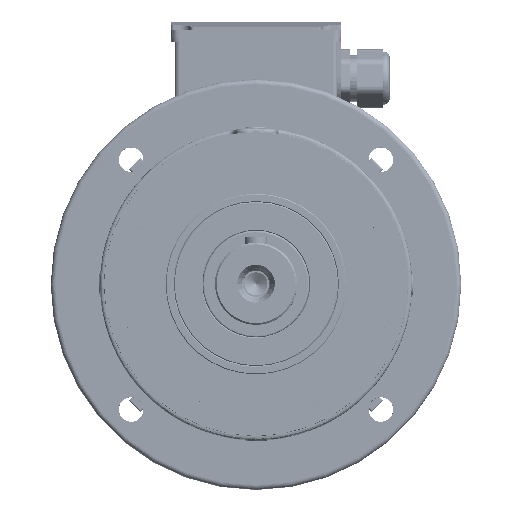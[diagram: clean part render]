
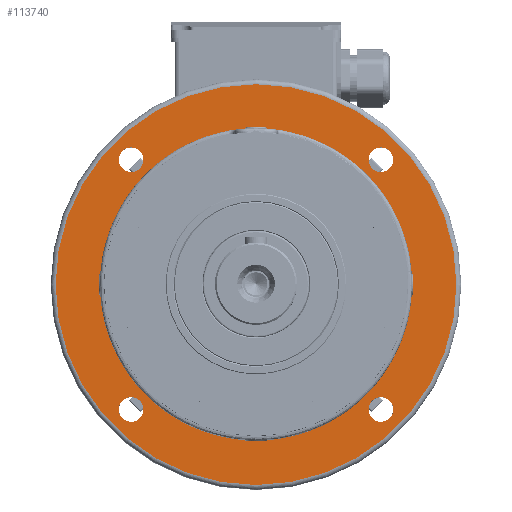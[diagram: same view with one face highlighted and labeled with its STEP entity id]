
A CAD part, top view. The second image highlights one B-rep face of the part: STEP entity #113740.
In plain terms, the highlighted planar face has unit normal (0, 0, 1).
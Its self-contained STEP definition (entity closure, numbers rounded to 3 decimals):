
#11353 = ORIENTED_EDGE ( 'NONE', *, *, #80455, .F. ) ;
#11387 = ORIENTED_EDGE ( 'NONE', *, *, #79649, .T. ) ;
#11413 = ORIENTED_EDGE ( 'NONE', *, *, #79742, .T. ) ;
#11415 = ORIENTED_EDGE ( 'NONE', *, *, #84615, .T. ) ;
#11436 = ORIENTED_EDGE ( 'NONE', *, *, #84577, .F. ) ;
#11522 = ORIENTED_EDGE ( 'NONE', *, *, #84503, .T. ) ;
#11614 = ORIENTED_EDGE ( 'NONE', *, *, #84667, .T. ) ;
#11632 = ORIENTED_EDGE ( 'NONE', *, *, #79590, .T. ) ;
#11634 = ORIENTED_EDGE ( 'NONE', *, *, #84650, .T. ) ;
#11635 = ORIENTED_EDGE ( 'NONE', *, *, #79688, .T. ) ;
#11784 = ORIENTED_EDGE ( 'NONE', *, *, #80206, .T. ) ;
#11787 = ORIENTED_EDGE ( 'NONE', *, *, #84513, .T. ) ;
#28139 = DIRECTION ( 'NONE',  ( 0., 0., -1. ) ) ;
#28169 = CARTESIAN_POINT ( 'NONE',  ( 76.014, -76.014, -63. ) ) ;
#28181 = DIRECTION ( 'NONE',  ( 0., 1., 0. ) ) ;
#28450 = DIRECTION ( 'NONE',  ( 0., 0., -1. ) ) ;
#28467 = DIRECTION ( 'NONE',  ( 0., 1., 0. ) ) ;
#28476 = CARTESIAN_POINT ( 'NONE',  ( -76.014, 76.014, -63. ) ) ;
#28620 = DIRECTION ( 'NONE',  ( 0., 1., 0. ) ) ;
#28638 = CARTESIAN_POINT ( 'NONE',  ( 76.014, 76.014, -63. ) ) ;
#28698 = DIRECTION ( 'NONE',  ( 0., 0., -1. ) ) ;
#28823 = DIRECTION ( 'NONE',  ( 0., 0., -1. ) ) ;
#28831 = DIRECTION ( 'NONE',  ( 0., 1., 0. ) ) ;
#28870 = CARTESIAN_POINT ( 'NONE',  ( -76.014, -76.014, -63. ) ) ;
#40699 = EDGE_LOOP ( 'NONE', ( #11415, #11387 ) ) ;
#42485 = EDGE_LOOP ( 'NONE', ( #11784, #11787 ) ) ;
#42522 = EDGE_LOOP ( 'NONE', ( #11522, #11413 ) ) ;
#42545 = EDGE_LOOP ( 'NONE', ( #11614, #11632 ) ) ;
#42556 = EDGE_LOOP ( 'NONE', ( #11634, #11635 ) ) ;
#42565 = EDGE_LOOP ( 'NONE', ( #11436, #11353 ) ) ;
#50963 = AXIS2_PLACEMENT_3D ( 'NONE', #28169, #28139, #28181 ) ;
#50976 = AXIS2_PLACEMENT_3D ( 'NONE', #28638, #28698, #28620 ) ;
#51012 = AXIS2_PLACEMENT_3D ( 'NONE', #28476, #28450, #28467 ) ;
#51067 = AXIS2_PLACEMENT_3D ( 'NONE', #28870, #28823, #28831 ) ;
#51227 = AXIS2_PLACEMENT_3D ( 'NONE', #147912, #147894, #147967 ) ;
#51255 = AXIS2_PLACEMENT_3D ( 'NONE', #234319, #234346, #234295 ) ;
#79590 = EDGE_CURVE ( 'NONE', #106788, #106710, #86578, .T. ) ;
#79649 = EDGE_CURVE ( 'NONE', #97967, #106712, #86744, .T. ) ;
#79688 = EDGE_CURVE ( 'NONE', #106686, #106702, #86805, .T. ) ;
#79742 = EDGE_CURVE ( 'NONE', #106763, #106730, #142376, .T. ) ;
#80206 = EDGE_CURVE ( 'NONE', #98510, #98533, #143235, .T. ) ;
#80455 = EDGE_CURVE ( 'NONE', #98486, #98520, #143449, .T. ) ;
#84503 = EDGE_CURVE ( 'NONE', #106730, #106763, #161592, .T. ) ;
#84513 = EDGE_CURVE ( 'NONE', #98533, #98510, #161593, .T. ) ;
#84577 = EDGE_CURVE ( 'NONE', #98520, #98486, #161694, .T. ) ;
#84615 = EDGE_CURVE ( 'NONE', #106712, #97967, #161741, .T. ) ;
#84650 = EDGE_CURVE ( 'NONE', #106702, #106686, #161696, .T. ) ;
#84667 = EDGE_CURVE ( 'NONE', #106710, #106788, #161651, .T. ) ;
#86578 = CIRCLE ( 'NONE', #50963, 7.5 ) ;
#86744 = CIRCLE ( 'NONE', #51012, 7.5 ) ;
#86805 = CIRCLE ( 'NONE', #50976, 7.5 ) ;
#97967 = VERTEX_POINT ( 'NONE', #181837 ) ;
#98486 = VERTEX_POINT ( 'NONE', #128346 ) ;
#98510 = VERTEX_POINT ( 'NONE', #128841 ) ;
#98520 = VERTEX_POINT ( 'NONE', #128687 ) ;
#98533 = VERTEX_POINT ( 'NONE', #128937 ) ;
#106686 = VERTEX_POINT ( 'NONE', #124614 ) ;
#106702 = VERTEX_POINT ( 'NONE', #124553 ) ;
#106710 = VERTEX_POINT ( 'NONE', #124720 ) ;
#106712 = VERTEX_POINT ( 'NONE', #124516 ) ;
#106730 = VERTEX_POINT ( 'NONE', #124695 ) ;
#106763 = VERTEX_POINT ( 'NONE', #124978 ) ;
#106788 = VERTEX_POINT ( 'NONE', #124880 ) ;
#113740 = ADVANCED_FACE ( 'NONE', ( #158342, #158362, #158321, #158356, #158334, #158283 ), #125622, .T. ) ;
#124516 = CARTESIAN_POINT ( 'NONE',  ( -83.514, 76.014, -63. ) ) ;
#124553 = CARTESIAN_POINT ( 'NONE',  ( 68.514, 76.014, -63. ) ) ;
#124614 = CARTESIAN_POINT ( 'NONE',  ( 83.514, 76.014, -63. ) ) ;
#124695 = CARTESIAN_POINT ( 'NONE',  ( -83.514, -76.014, -63. ) ) ;
#124720 = CARTESIAN_POINT ( 'NONE',  ( 68.514, -76.014, -63. ) ) ;
#124880 = CARTESIAN_POINT ( 'NONE',  ( 83.514, -76.014, -63. ) ) ;
#124978 = CARTESIAN_POINT ( 'NONE',  ( -68.514, -76.014, -63. ) ) ;
#125622 = PLANE ( 'NONE',  #137739 ) ;
#125657 = DIRECTION ( 'NONE',  ( 0., 1., 0. ) ) ;
#125733 = DIRECTION ( 'NONE',  ( 0., 0., 1. ) ) ;
#125812 = CARTESIAN_POINT ( 'NONE',  ( 0., 92., -63. ) ) ;
#128346 = CARTESIAN_POINT ( 'NONE',  ( 0., 92., -63. ) ) ;
#128687 = CARTESIAN_POINT ( 'NONE',  ( 0., -92., -63. ) ) ;
#128841 = CARTESIAN_POINT ( 'NONE',  ( 0., 122., -63. ) ) ;
#128937 = CARTESIAN_POINT ( 'NONE',  ( 0., -122., -63. ) ) ;
#137739 = AXIS2_PLACEMENT_3D ( 'NONE', #125812, #125733, #125657 ) ;
#142376 = CIRCLE ( 'NONE', #51067, 7.5 ) ;
#143235 = CIRCLE ( 'NONE', #51227, 122. ) ;
#143449 = CIRCLE ( 'NONE', #51255, 92. ) ;
#147894 = DIRECTION ( 'NONE',  ( 0., 0., 1. ) ) ;
#147912 = CARTESIAN_POINT ( 'NONE',  ( 0., 0., -63. ) ) ;
#147967 = DIRECTION ( 'NONE',  ( 0., 1., 0. ) ) ;
#158283 = FACE_OUTER_BOUND ( 'NONE', #42485, .T. ) ;
#158321 = FACE_BOUND ( 'NONE', #42522, .T. ) ;
#158334 = FACE_BOUND ( 'NONE', #42565, .T. ) ;
#158342 = FACE_BOUND ( 'NONE', #42556, .T. ) ;
#158356 = FACE_BOUND ( 'NONE', #40699, .T. ) ;
#158362 = FACE_BOUND ( 'NONE', #42545, .T. ) ;
#161592 = CIRCLE ( 'NONE', #198427, 7.5 ) ;
#161593 = CIRCLE ( 'NONE', #198467, 122. ) ;
#161651 = CIRCLE ( 'NONE', #198513, 7.5 ) ;
#161694 = CIRCLE ( 'NONE', #198473, 92. ) ;
#161696 = CIRCLE ( 'NONE', #198482, 7.5 ) ;
#161741 = CIRCLE ( 'NONE', #198532, 7.5 ) ;
#181837 = CARTESIAN_POINT ( 'NONE',  ( -68.514, 76.014, -63. ) ) ;
#198427 = AXIS2_PLACEMENT_3D ( 'NONE', #229830, #229849, #229866 ) ;
#198467 = AXIS2_PLACEMENT_3D ( 'NONE', #229871, #229881, #229844 ) ;
#198473 = AXIS2_PLACEMENT_3D ( 'NONE', #230626, #230577, #230607 ) ;
#198482 = AXIS2_PLACEMENT_3D ( 'NONE', #230930, #230933, #230935 ) ;
#198513 = AXIS2_PLACEMENT_3D ( 'NONE', #231088, #231143, #231137 ) ;
#198532 = AXIS2_PLACEMENT_3D ( 'NONE', #230868, #230833, #230887 ) ;
#229830 = CARTESIAN_POINT ( 'NONE',  ( -76.014, -76.014, -63. ) ) ;
#229844 = DIRECTION ( 'NONE',  ( 0., 1., 0. ) ) ;
#229849 = DIRECTION ( 'NONE',  ( 0., 0., -1. ) ) ;
#229866 = DIRECTION ( 'NONE',  ( 0., 1., 0. ) ) ;
#229871 = CARTESIAN_POINT ( 'NONE',  ( 0., 0., -63. ) ) ;
#229881 = DIRECTION ( 'NONE',  ( 0., 0., 1. ) ) ;
#230577 = DIRECTION ( 'NONE',  ( 0., 0., 1. ) ) ;
#230607 = DIRECTION ( 'NONE',  ( 0., 1., 0. ) ) ;
#230626 = CARTESIAN_POINT ( 'NONE',  ( 0., 0., -63. ) ) ;
#230833 = DIRECTION ( 'NONE',  ( 0., 0., -1. ) ) ;
#230868 = CARTESIAN_POINT ( 'NONE',  ( -76.014, 76.014, -63. ) ) ;
#230887 = DIRECTION ( 'NONE',  ( 0., 1., 0. ) ) ;
#230930 = CARTESIAN_POINT ( 'NONE',  ( 76.014, 76.014, -63. ) ) ;
#230933 = DIRECTION ( 'NONE',  ( 0., 0., -1. ) ) ;
#230935 = DIRECTION ( 'NONE',  ( 0., 1., 0. ) ) ;
#231088 = CARTESIAN_POINT ( 'NONE',  ( 76.014, -76.014, -63. ) ) ;
#231137 = DIRECTION ( 'NONE',  ( 0., 1., 0. ) ) ;
#231143 = DIRECTION ( 'NONE',  ( 0., 0., -1. ) ) ;
#234295 = DIRECTION ( 'NONE',  ( 0., 1., 0. ) ) ;
#234319 = CARTESIAN_POINT ( 'NONE',  ( 0., 0., -63. ) ) ;
#234346 = DIRECTION ( 'NONE',  ( 0., 0., 1. ) ) ;
